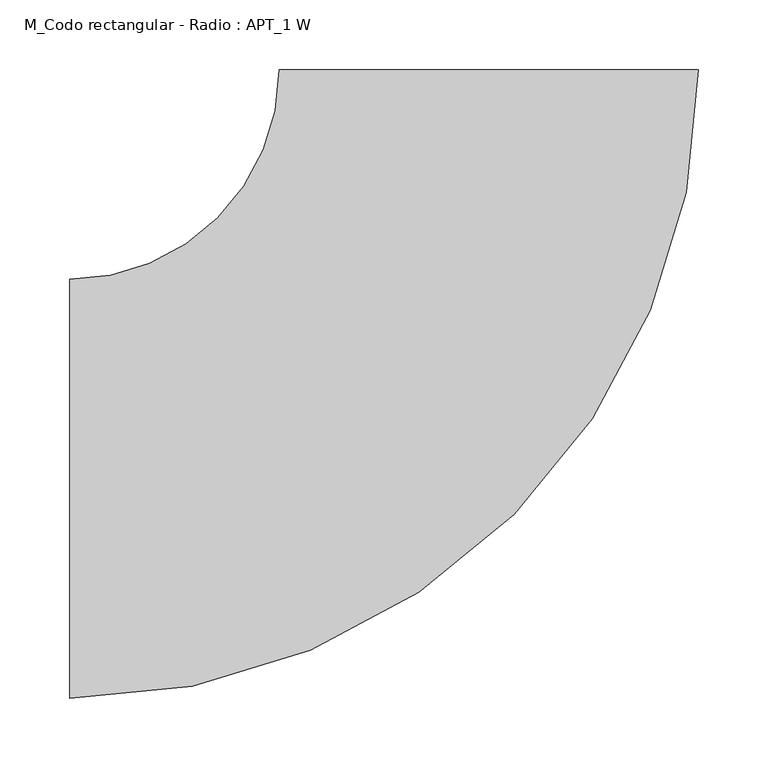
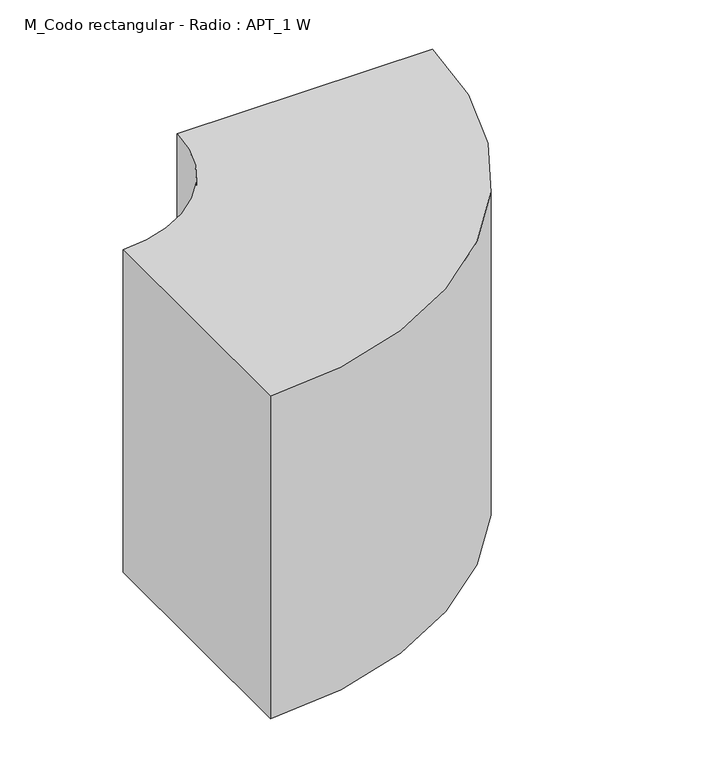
"""IFC4 building model written with IfcOpenShell, lengths in millimetres: duct fitting geometry, M_Codo rectangular - Radio : APT_1 W."""

from ifc_helpers import new_model, si_unit, point, frame, frame_2d, origin, place, context, project, spatial, polyline, circle_curve, trimmed, segment, composite_curve, outline, extrude, source, transform, mapped, element, save


def m_codo_rectangular_radio_apt_1_w_7d0cd86b(model_context):
    return source(origin(), model_context, "Body", "SweptSolid", [
        extrude(outline(composite_curve([segment(trimmed(circle_curve(frame_2d((-300.0, 300.0)), 450.0), [point((150.0, 300.0))], [point((-300.0, -150.0))], False, "CARTESIAN"), True, "CONTINUOUS"), segment(polyline([(-300.0, -150.0), (-300.0, 150.0)]), True, "CONTINUOUS"), segment(trimmed(circle_curve(frame_2d((-300.0, 300.0)), 150.0), [point((-300.0, 150.0))], [point((-150.0, 300.0))], True, "CARTESIAN"), True, "CONTINUOUS"), segment(polyline([(-150.0, 300.0), (150.0, 300.0)]), True, "CONTINUOUS")], self_intersect=False)), frame((0.0, 0.0, -200.0), z_axis=(0.0, 0.0, 1.0), x_axis=(1.0, 0.0, 0.0)), (0.0, 0.0, 1.0), 400.0),
    ])


if __name__ == "__main__":
    model = new_model("IFC4")
    model_context = context("Model", 3, world=origin())
    ifc_project = project(units=[si_unit("LENGTHUNIT", "METRE", prefix="MILLI")], contexts=[model_context])
    site = spatial("IfcSite", under=ifc_project)
    building = spatial("IfcBuilding", under=site)
    placement = place(None, origin())
    m_codo_rectangular_radio_apt_1_w_shape = m_codo_rectangular_radio_apt_1_w_7d0cd86b(model_context)
    element("IfcDuctFitting", 1, ObjectType="M_Codo rectangular - Radio : APT_1 W", at=placement, inside=building, context=model_context, shape_type="MappedRepresentation", body=[
        mapped(m_codo_rectangular_radio_apt_1_w_shape, transform((0.0, 0.0, 0.0), x_axis=(1.0, 0.0, 0.0), y_axis=(0.0, 1.0, 0.0), z_axis=(0.0, 0.0, 1.0))),
    ])
    save(model, "model.ifc")
